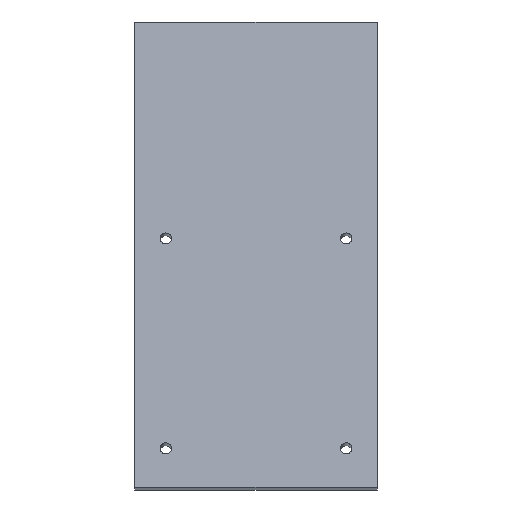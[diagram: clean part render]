
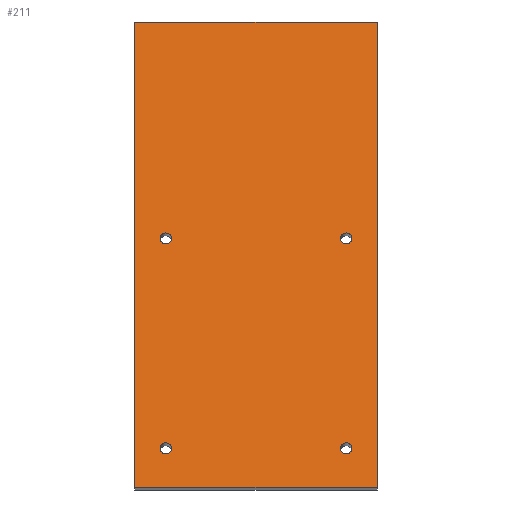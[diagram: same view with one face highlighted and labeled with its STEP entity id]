
A CAD part, top view. The second image highlights one B-rep face of the part: STEP entity #211.
In plain terms, the highlighted planar face has unit normal (0, 0.174, 0.985).
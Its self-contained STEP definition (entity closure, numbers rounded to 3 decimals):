
#111=CARTESIAN_POINT('',(-284.5,128.125,1663.314));
#112=VERTEX_POINT('',#111);
#119=CARTESIAN_POINT('',(-284.5,-155.499,1713.325));
#120=VERTEX_POINT('',#119);
#121=CARTESIAN_POINT('',(-284.5,128.125,1663.314));
#122=DIRECTION('',(0.0,-0.985,0.174));
#123=VECTOR('',#122,1.);
#124=LINE('',#121,#123);
#125=EDGE_CURVE('',#112,#120,#124,.T.);
#137=CARTESIAN_POINT('',(-284.5,128.125,1663.314));
#138=DIRECTION('',(0.0,0.174,0.985));
#139=DIRECTION('',(-1.0,0.0,0.0));
#140=AXIS2_PLACEMENT_3D('',#137,#138,#139);
#141=PLANE('',#140);
#142=CARTESIAN_POINT('',(-432.5,128.125,1663.314));
#143=VERTEX_POINT('',#142);
#144=CARTESIAN_POINT('',(-284.5,128.125,1663.314));
#145=DIRECTION('',(-1.0,0.,0.));
#146=VECTOR('',#145,1.);
#147=LINE('',#144,#146);
#148=EDGE_CURVE('',#112,#143,#147,.T.);
#149=ORIENTED_EDGE('',*,*,#148,.T.);
#150=CARTESIAN_POINT('',(-432.5,-155.499,1713.325));
#151=VERTEX_POINT('',#150);
#152=CARTESIAN_POINT('',(-432.5,128.125,1663.314));
#153=DIRECTION('',(0.0,-0.985,0.174));
#154=VECTOR('',#153,1.);
#155=LINE('',#152,#154);
#156=EDGE_CURVE('',#143,#151,#155,.T.);
#157=ORIENTED_EDGE('',*,*,#156,.T.);
#158=CARTESIAN_POINT('',(-284.5,-155.499,1713.325));
#159=DIRECTION('',(-1.0,0.,0.));
#160=VECTOR('',#159,1.);
#161=LINE('',#158,#160);
#162=EDGE_CURVE('',#120,#151,#161,.T.);
#163=ORIENTED_EDGE('',*,*,#162,.F.);
#164=ORIENTED_EDGE('',*,*,#125,.F.);
#165=EDGE_LOOP('',(#149,#157,#163,#164));
#166=FACE_OUTER_BOUND('',#165,.T.);
#167=CARTESIAN_POINT('',(-410.1,-3.839,1686.583));
#168=VERTEX_POINT('',#167);
#169=CARTESIAN_POINT('',(-413.5,-3.839,1686.583));
#170=DIRECTION('',(0.0,0.174,0.985));
#171=DIRECTION('',(1.0,0.0,0.0));
#172=AXIS2_PLACEMENT_3D('',#169,#170,#171);
#173=CIRCLE('',#172,3.4);
#174=EDGE_CURVE('',#168,#168,#173,.T.);
#175=ORIENTED_EDGE('',*,*,#174,.F.);
#176=EDGE_LOOP('',(#175));
#177=FACE_BOUND('',#176,.T.);
#178=CARTESIAN_POINT('',(-410.1,-131.864,1709.158));
#179=VERTEX_POINT('',#178);
#180=CARTESIAN_POINT('',(-413.5,-131.864,1709.158));
#181=DIRECTION('',(0.0,0.174,0.985));
#182=DIRECTION('',(1.0,0.0,0.0));
#183=AXIS2_PLACEMENT_3D('',#180,#181,#182);
#184=CIRCLE('',#183,3.4);
#185=EDGE_CURVE('',#179,#179,#184,.T.);
#186=ORIENTED_EDGE('',*,*,#185,.F.);
#187=EDGE_LOOP('',(#186));
#188=FACE_BOUND('',#187,.T.);
#189=CARTESIAN_POINT('',(-300.1,-3.839,1686.583));
#190=VERTEX_POINT('',#189);
#191=CARTESIAN_POINT('',(-303.5,-3.839,1686.583));
#192=DIRECTION('',(0.0,0.174,0.985));
#193=DIRECTION('',(1.0,0.0,0.0));
#194=AXIS2_PLACEMENT_3D('',#191,#192,#193);
#195=CIRCLE('',#194,3.4);
#196=EDGE_CURVE('',#190,#190,#195,.T.);
#197=ORIENTED_EDGE('',*,*,#196,.F.);
#198=EDGE_LOOP('',(#197));
#199=FACE_BOUND('',#198,.T.);
#200=CARTESIAN_POINT('',(-300.1,-131.864,1709.158));
#201=VERTEX_POINT('',#200);
#202=CARTESIAN_POINT('',(-303.5,-131.864,1709.158));
#203=DIRECTION('',(0.0,0.174,0.985));
#204=DIRECTION('',(1.0,0.0,0.0));
#205=AXIS2_PLACEMENT_3D('',#202,#203,#204);
#206=CIRCLE('',#205,3.4);
#207=EDGE_CURVE('',#201,#201,#206,.T.);
#208=ORIENTED_EDGE('',*,*,#207,.F.);
#209=EDGE_LOOP('',(#208));
#210=FACE_BOUND('',#209,.T.);
#211=ADVANCED_FACE('',(#166,#177,#188,#199,#210),#141,.T.);
